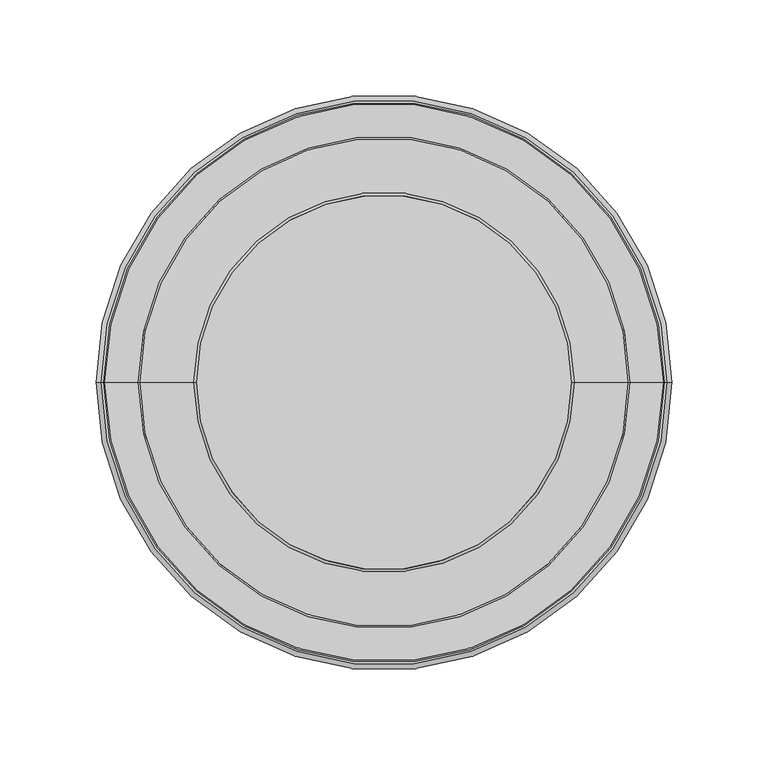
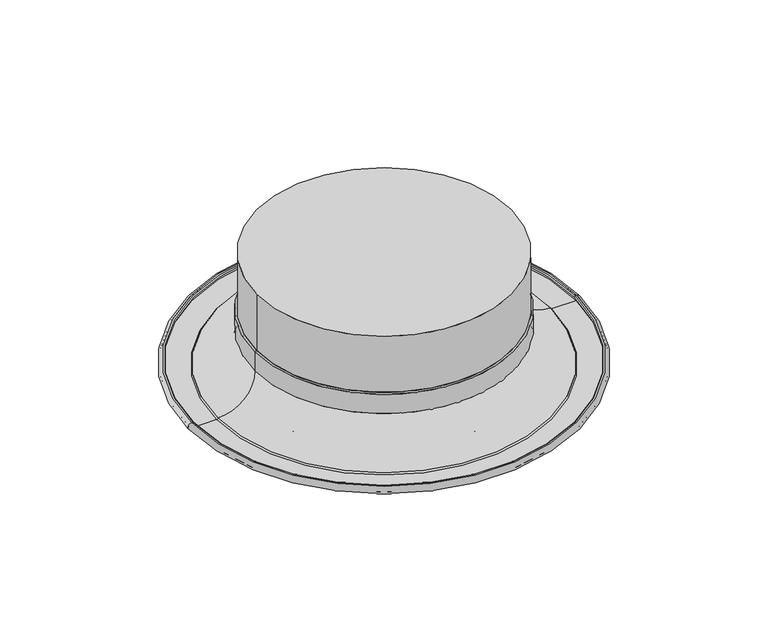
"""IFC4 building model written with IfcOpenShell, lengths in millimetres: air terminal geometry, AI_Bouche aération_Circulaire Extraction : ø200 mm."""

from ifc_helpers import new_model, si_unit, point, frame, origin, origin_with_axes, origin_2d, place, context, project, spatial, polyline, circle_curve, ellipse_curve, trimmed, segment, composite_curve, outline, extrude, source, transform, mapped, element, save
from ifc_brep_helpers import plane_surface, cylinder_surface, revolved_surface, advanced_brep


def air_terminal_8fbfe4fd(model_context):
    return source(origin(), model_context, "Body", "SolidModel", [
        extrude(outline(composite_curve([segment(trimmed(circle_curve(origin_2d(), 97.5), [point((97.5, 0.0))], [point((-97.5, 0.0))], False, "CARTESIAN"), True, "CONTINUOUS"), segment(trimmed(circle_curve(origin_2d(), 97.5), [point((-97.5, 0.0))], [point((97.5, 0.0))], False, "CARTESIAN"), True, "CONTINUOUS")], self_intersect=False)), frame((0.0, 0.0, 41.2), z_axis=(0.0, 0.0, 1.0), x_axis=(1.0, 0.0, 0.0)), (0.0, 0.0, 1.0), 45.4),
        advanced_brep(
        [(-72.4021074, 0.0, 20.3), (72.4021074, 0.0, 20.3), (74.6975243, 0.0, 18.1451243), (-74.6975243, 0.0, 18.1451243), (-70.0, 0.0, 20.3), (70.0, 0.0, 20.3), (-70.0, 0.0, 19.0), (70.0, 0.0, 19.0), (-72.4021074, 0.0, 19.0), (72.4021074, 0.0, 19.0), (-73.4001147, 0.0, 18.0630975), (73.4001147, 0.0, 18.0630975), (-98.5, 0.0, -5.5), (98.5, 0.0, -5.5), (-103.27, 0.0, -5.5), (103.27, 0.0, -5.5), (-103.27, 0.0, -0.7), (103.27, 0.0, -0.7), (-102.27, 0.0, -0.7), (102.27, 0.0, -0.7), (-102.27, 0.0, -2.0), (102.27, 0.0, -2.0), (-103.27, 0.0, -2.0), (103.27, 0.0, -2.0), (-103.27, 0.0, -4.2), (103.27, 0.0, -4.2), (-98.5, 0.0, -4.2), (98.5, 0.0, -4.2)],
        [
            (0, 1, circle_curve(frame((0.0, 0.0, 20.3), z_axis=(0.0, 0.0, -1.0), x_axis=(1.0, 0.0, 0.0)), 72.4021074)),
            (1, 2, circle_curve(frame((72.4021074, 0.0, 18.0), z_axis=(0.0, 1.0, 0.0), x_axis=(1.0, 0.0, 0.0)), 2.3)),
            (2, 3, circle_curve(frame((0.0, 0.0, 18.1451243), z_axis=(0.0, 0.0, 1.0), x_axis=(1.0, 0.0, 0.0)), 74.6975243)),
            (3, 0, circle_curve(frame((-72.4021074, 0.0, 18.0), z_axis=(0.0, 1.0, 0.0), x_axis=(-1.0, 0.0, 0.0)), 2.3)),
            (1, 0, circle_curve(frame((0.0, 0.0, 20.3), z_axis=(0.0, 0.0, -1.0), x_axis=(1.0, 0.0, 0.0)), 72.4021074)),
            (3, 2, circle_curve(frame((0.0, 0.0, 18.1451243), z_axis=(0.0, 0.0, 1.0), x_axis=(1.0, 0.0, 0.0)), 74.6975243)),
            (4, 5, circle_curve(frame((0.0, 0.0, 20.3), z_axis=(0.0, 0.0, -1.0), x_axis=(1.0, 0.0, 0.0)), 70.0)),
            (5, 1),
            (0, 4),
            (5, 4, circle_curve(frame((0.0, 0.0, 20.3), z_axis=(0.0, 0.0, -1.0), x_axis=(1.0, 0.0, 0.0)), 70.0)),
            (6, 7, circle_curve(frame((0.0, 0.0, 19.0), z_axis=(0.0, 0.0, -1.0), x_axis=(1.0, 0.0, 0.0)), 70.0)),
            (7, 5, circle_curve(frame((70.0, 0.0, 19.65), z_axis=(0.0, 1.0, 0.0), x_axis=(1.0, 0.0, 0.0)), 0.65)),
            (4, 6, circle_curve(frame((-70.0, 0.0, 19.65), z_axis=(0.0, 1.0, 0.0), x_axis=(-1.0, 0.0, 0.0)), 0.65)),
            (7, 6, circle_curve(frame((0.0, 0.0, 19.0), z_axis=(0.0, 0.0, -1.0), x_axis=(1.0, 0.0, 0.0)), 70.0)),
            (8, 9, circle_curve(frame((0.0, 0.0, 19.0), z_axis=(0.0, 0.0, -1.0), x_axis=(1.0, 0.0, 0.0)), 72.4021074)),
            (9, 7),
            (6, 8),
            (9, 8, circle_curve(frame((0.0, 0.0, 19.0), z_axis=(0.0, 0.0, -1.0), x_axis=(1.0, 0.0, 0.0)), 72.4021074)),
            (10, 11, circle_curve(frame((0.0, 0.0, 18.0630975), z_axis=(0.0, 0.0, -1.0), x_axis=(1.0, 0.0, 0.0)), 73.4001147)),
            (11, 9, circle_curve(frame((72.4021074, 0.0, 18.0), z_axis=(0.0, -1.0, 0.0), x_axis=(1.0, 0.0, 0.0)), 1.0)),
            (8, 10, circle_curve(frame((-72.4021074, 0.0, 18.0), z_axis=(0.0, -1.0, 0.0), x_axis=(-1.0, 0.0, 0.0)), 1.0)),
            (11, 10, circle_curve(frame((0.0, 0.0, 18.0630975), z_axis=(0.0, 0.0, -1.0), x_axis=(1.0, 0.0, 0.0)), 73.4001147)),
            (12, 13, circle_curve(frame((0.0, 0.0, -5.5), z_axis=(0.0, 0.0, -1.0), x_axis=(1.0, 0.0, 0.0)), 98.5)),
            (13, 11, circle_curve(frame((98.5, 0.0, 19.65), z_axis=(0.0, 1.0, 0.0), x_axis=(1.0, 0.0, 0.0)), 25.15)),
            (10, 12, circle_curve(frame((-98.5, 0.0, 19.65), z_axis=(0.0, 1.0, 0.0), x_axis=(-1.0, 0.0, 0.0)), 25.15)),
            (13, 12, circle_curve(frame((0.0, 0.0, -5.5), z_axis=(0.0, 0.0, -1.0), x_axis=(1.0, 0.0, 0.0)), 98.5)),
            (14, 15, circle_curve(frame((0.0, 0.0, -5.5), z_axis=(0.0, 0.0, -1.0), x_axis=(1.0, 0.0, 0.0)), 103.27)),
            (15, 13),
            (12, 14),
            (15, 14, circle_curve(frame((0.0, 0.0, -5.5), z_axis=(0.0, 0.0, -1.0), x_axis=(1.0, 0.0, 0.0)), 103.27)),
            (16, 17, circle_curve(frame((0.0, 0.0, -0.7), z_axis=(0.0, 0.0, -1.0), x_axis=(1.0, 0.0, 0.0)), 103.27)),
            (17, 15, circle_curve(frame((103.27, 0.0, -3.1), z_axis=(0.0, 1.0, 0.0), x_axis=(1.0, 0.0, 0.0)), 2.4)),
            (14, 16, circle_curve(frame((-103.27, 0.0, -3.1), z_axis=(0.0, 1.0, 0.0), x_axis=(-1.0, 0.0, 0.0)), 2.4)),
            (17, 16, circle_curve(frame((0.0, 0.0, -0.7), z_axis=(0.0, 0.0, -1.0), x_axis=(1.0, 0.0, 0.0)), 103.27)),
            (18, 19, circle_curve(frame((0.0, 0.0, -0.7), z_axis=(0.0, 0.0, -1.0), x_axis=(1.0, 0.0, 0.0)), 102.27)),
            (19, 17),
            (16, 18),
            (19, 18, circle_curve(frame((0.0, 0.0, -0.7), z_axis=(0.0, 0.0, -1.0), x_axis=(1.0, 0.0, 0.0)), 102.27)),
            (20, 21, circle_curve(frame((0.0, 0.0, -2.0), z_axis=(0.0, 0.0, -1.0), x_axis=(1.0, 0.0, 0.0)), 102.27)),
            (21, 19, circle_curve(frame((102.27, 0.0, -1.35), z_axis=(0.0, 1.0, 0.0), x_axis=(1.0, 0.0, 0.0)), 0.65)),
            (18, 20, circle_curve(frame((-102.27, 0.0, -1.35), z_axis=(0.0, 1.0, 0.0), x_axis=(-1.0, 0.0, 0.0)), 0.65)),
            (21, 20, circle_curve(frame((0.0, 0.0, -2.0), z_axis=(0.0, 0.0, -1.0), x_axis=(1.0, 0.0, 0.0)), 102.27)),
            (22, 23, circle_curve(frame((0.0, 0.0, -2.0), z_axis=(0.0, 0.0, -1.0), x_axis=(1.0, 0.0, 0.0)), 103.27)),
            (23, 21),
            (20, 22),
            (23, 22, circle_curve(frame((0.0, 0.0, -2.0), z_axis=(0.0, 0.0, -1.0), x_axis=(1.0, 0.0, 0.0)), 103.27)),
            (24, 25, circle_curve(frame((0.0, 0.0, -4.2), z_axis=(0.0, 0.0, -1.0), x_axis=(1.0, 0.0, 0.0)), 103.27)),
            (25, 23, circle_curve(frame((103.27, 0.0, -3.1), z_axis=(0.0, -1.0, 0.0), x_axis=(1.0, 0.0, 0.0)), 1.1)),
            (22, 24, circle_curve(frame((-103.27, 0.0, -3.1), z_axis=(0.0, -1.0, 0.0), x_axis=(-1.0, 0.0, 0.0)), 1.1)),
            (25, 24, circle_curve(frame((0.0, 0.0, -4.2), z_axis=(0.0, 0.0, -1.0), x_axis=(1.0, 0.0, 0.0)), 103.27)),
            (26, 27, circle_curve(frame((0.0, 0.0, -4.2), z_axis=(0.0, 0.0, -1.0), x_axis=(1.0, 0.0, 0.0)), 98.5)),
            (27, 25),
            (24, 26),
            (27, 26, circle_curve(frame((0.0, 0.0, -4.2), z_axis=(0.0, 0.0, -1.0), x_axis=(1.0, 0.0, 0.0)), 98.5)),
            (2, 27, circle_curve(frame((98.5, 0.0, 19.65), z_axis=(0.0, -1.0, 0.0), x_axis=(1.0, 0.0, 0.0)), 23.85)),
            (26, 3, circle_curve(frame((-98.5, 0.0, 19.65), z_axis=(0.0, -1.0, 0.0), x_axis=(-1.0, 0.0, 0.0)), 23.85)),
        ],
        [
            revolved_surface(trimmed(ellipse_curve(frame((72.4021074, 0.0, 18.0), z_axis=(0.0, -1.0, 0.0), x_axis=(1.0, 0.0, 0.0)), 2.3, 2.3), [point((74.6975243, 0.0, 18.1451243))], [point((72.4021074, 0.0, 20.3))], True, "CARTESIAN"), (0.0, 0.0, 1789.7688894), (0.0, 0.0, 1.0)),
            plane_surface(frame((0.0, 0.0, 20.3), z_axis=(0.0, 0.0, 1.0), x_axis=(1.0, 0.0, 0.0))),
            revolved_surface(trimmed(ellipse_curve(frame((70.0, 0.0, 19.65), z_axis=(0.0, -1.0, 0.0), x_axis=(1.0, 0.0, 0.0)), 0.65, 0.65), [point((70.0, 0.0, 20.3))], [point((70.0, 0.0, 19.0))], True, "CARTESIAN"), (0.0, 0.0, 1789.7688894), (0.0, 0.0, 1.0)),
            plane_surface(frame((0.0, 0.0, 19.0), z_axis=(0.0, 0.0, -1.0), x_axis=(1.0, 0.0, 0.0))),
            revolved_surface(trimmed(ellipse_curve(frame((72.4021074, 0.0, 18.0), z_axis=(0.0, 1.0, 0.0), x_axis=(1.0, 0.0, 0.0)), 1.0, 1.0), [point((72.4021074, 0.0, 19.0))], [point((73.4001147, 0.0, 18.0630975))], True, "CARTESIAN"), (0.0, 0.0, 1789.7688894), (0.0, 0.0, 1.0)),
            revolved_surface(trimmed(ellipse_curve(frame((98.5, 0.0, 19.65), z_axis=(0.0, -1.0, 0.0), x_axis=(1.0, 0.0, 0.0)), 25.15, 25.15), [point((73.4001147, 0.0, 18.0630975))], [point((98.5, 0.0, -5.5))], True, "CARTESIAN"), (0.0, 0.0, 1789.7688894), (0.0, 0.0, 1.0)),
            plane_surface(frame((0.0, 0.0, -5.5), z_axis=(0.0, 0.0, -1.0), x_axis=(1.0, 0.0, 0.0))),
            revolved_surface(trimmed(ellipse_curve(frame((103.27, 0.0, -3.1), z_axis=(0.0, -1.0, 0.0), x_axis=(1.0, 0.0, 0.0)), 2.4, 2.4), [point((103.27, 0.0, -5.5))], [point((103.27, 0.0, -0.7))], True, "CARTESIAN"), (0.0, 0.0, 1789.7688894), (0.0, 0.0, 1.0)),
            plane_surface(frame((0.0, 0.0, -0.7), z_axis=(0.0, 0.0, 1.0), x_axis=(1.0, 0.0, 0.0))),
            revolved_surface(trimmed(ellipse_curve(frame((102.27, 0.0, -1.35), z_axis=(0.0, -1.0, 0.0), x_axis=(1.0, 0.0, 0.0)), 0.65, 0.65), [point((102.27, 0.0, -0.7))], [point((102.27, 0.0, -2.0))], True, "CARTESIAN"), (0.0, 0.0, 1789.7688894), (0.0, 0.0, 1.0)),
            plane_surface(frame((0.0, 0.0, -2.0), z_axis=(0.0, 0.0, -1.0), x_axis=(1.0, 0.0, 0.0))),
            revolved_surface(trimmed(ellipse_curve(frame((103.27, 0.0, -3.1), z_axis=(0.0, 1.0, 0.0), x_axis=(1.0, 0.0, 0.0)), 1.1, 1.1), [point((103.27, 0.0, -2.0))], [point((103.27, 0.0, -4.2))], True, "CARTESIAN"), (0.0, 0.0, 1789.7688894), (0.0, 0.0, 1.0)),
            plane_surface(frame((0.0, 0.0, -4.2), z_axis=(0.0, 0.0, 1.0), x_axis=(1.0, 0.0, 0.0))),
            revolved_surface(trimmed(ellipse_curve(frame((98.5, 0.0, 19.65), z_axis=(0.0, 1.0, 0.0), x_axis=(1.0, 0.0, 0.0)), 23.85, 23.85), [point((98.5, 0.0, -4.2))], [point((74.6975243, 0.0, 18.1451243))], True, "CARTESIAN"), (0.0, 0.0, 1789.7688894), (0.0, 0.0, 1.0)),
        ],
        [
            (0, [[1, 2, 3, 4]]),
            (0, [[5, -4, 6, -2]]),
            (1, [[7, 8, -1, 9]]),
            (1, [[10, -9, -5, -8]]),
            (2, [[11, 12, -7, 13]]),
            (2, [[14, -13, -10, -12]]),
            (3, [[15, 16, -11, 17]]),
            (3, [[18, -17, -14, -16]]),
            (4, [[19, 20, -15, 21]]),
            (4, [[22, -21, -18, -20]]),
            (5, [[23, 24, -19, 25]]),
            (5, [[26, -25, -22, -24]]),
            (6, [[27, 28, -23, 29]]),
            (6, [[30, -29, -26, -28]]),
            (7, [[31, 32, -27, 33]]),
            (7, [[34, -33, -30, -32]]),
            (8, [[35, 36, -31, 37]]),
            (8, [[38, -37, -34, -36]]),
            (9, [[39, 40, -35, 41]]),
            (9, [[42, -41, -38, -40]]),
            (10, [[43, 44, -39, 45]]),
            (10, [[46, -45, -42, -44]]),
            (11, [[47, 48, -43, 49]]),
            (11, [[50, -49, -46, -48]]),
            (12, [[51, 52, -47, 53]]),
            (12, [[54, -53, -50, -52]]),
            (13, [[-3, 55, -51, 56]]),
            (13, [[-6, -56, -54, -55]]),
        ],
    ),
        advanced_brep(
        [(-42.4021074, 0.0, 20.3), (42.4021074, 0.0, 20.3), (44.6975243, 0.0, 18.1451243), (-44.6975243, 0.0, 18.1451243), (-40.0, 0.0, 20.3), (40.0, 0.0, 20.3), (-40.0, 0.0, 19.0), (40.0, 0.0, 19.0), (-42.4021074, 0.0, 19.0), (42.4021074, 0.0, 19.0), (-43.4001147, 0.0, 18.0630975), (43.4001147, 0.0, 18.0630975), (-68.5, 0.0, -5.5), (68.5, 0.0, -5.5), (-73.27, 0.0, -5.5), (73.27, 0.0, -5.5), (-73.27, 0.0, -0.7), (73.27, 0.0, -0.7), (-72.27, 0.0, -0.7), (72.27, 0.0, -0.7), (-72.27, 0.0, -2.0), (72.27, 0.0, -2.0), (-73.27, 0.0, -2.0), (73.27, 0.0, -2.0), (-73.27, 0.0, -4.2), (73.27, 0.0, -4.2), (-68.5, 0.0, -4.2), (68.5, 0.0, -4.2)],
        [
            (0, 1, circle_curve(frame((0.0, 0.0, 20.3), z_axis=(0.0, 0.0, -1.0), x_axis=(1.0, 0.0, 0.0)), 42.4021074)),
            (1, 2, circle_curve(frame((42.4021074, 0.0, 18.0), z_axis=(0.0, 1.0, 0.0), x_axis=(1.0, 0.0, 0.0)), 2.3)),
            (2, 3, circle_curve(frame((0.0, 0.0, 18.1451243), z_axis=(0.0, 0.0, 1.0), x_axis=(1.0, 0.0, 0.0)), 44.6975243)),
            (3, 0, circle_curve(frame((-42.4021074, 0.0, 18.0), z_axis=(0.0, 1.0, 0.0), x_axis=(-1.0, 0.0, 0.0)), 2.3)),
            (1, 0, circle_curve(frame((0.0, 0.0, 20.3), z_axis=(0.0, 0.0, -1.0), x_axis=(1.0, 0.0, 0.0)), 42.4021074)),
            (3, 2, circle_curve(frame((0.0, 0.0, 18.1451243), z_axis=(0.0, 0.0, 1.0), x_axis=(1.0, 0.0, 0.0)), 44.6975243)),
            (4, 5, circle_curve(frame((0.0, 0.0, 20.3), z_axis=(0.0, 0.0, -1.0), x_axis=(1.0, 0.0, 0.0)), 40.0)),
            (5, 1),
            (0, 4),
            (5, 4, circle_curve(frame((0.0, 0.0, 20.3), z_axis=(0.0, 0.0, -1.0), x_axis=(1.0, 0.0, 0.0)), 40.0)),
            (6, 7, circle_curve(frame((0.0, 0.0, 19.0), z_axis=(0.0, 0.0, -1.0), x_axis=(1.0, 0.0, 0.0)), 40.0)),
            (7, 5, circle_curve(frame((40.0, 0.0, 19.65), z_axis=(0.0, 1.0, 0.0), x_axis=(1.0, 0.0, 0.0)), 0.65)),
            (4, 6, circle_curve(frame((-40.0, 0.0, 19.65), z_axis=(0.0, 1.0, 0.0), x_axis=(-1.0, 0.0, 0.0)), 0.65)),
            (7, 6, circle_curve(frame((0.0, 0.0, 19.0), z_axis=(0.0, 0.0, -1.0), x_axis=(1.0, 0.0, 0.0)), 40.0)),
            (8, 9, circle_curve(frame((0.0, 0.0, 19.0), z_axis=(0.0, 0.0, -1.0), x_axis=(1.0, 0.0, 0.0)), 42.4021074)),
            (9, 7),
            (6, 8),
            (9, 8, circle_curve(frame((0.0, 0.0, 19.0), z_axis=(0.0, 0.0, -1.0), x_axis=(1.0, 0.0, 0.0)), 42.4021074)),
            (10, 11, circle_curve(frame((0.0, 0.0, 18.0630975), z_axis=(0.0, 0.0, -1.0), x_axis=(1.0, 0.0, 0.0)), 43.4001147)),
            (11, 9, circle_curve(frame((42.4021074, 0.0, 18.0), z_axis=(0.0, -1.0, 0.0), x_axis=(1.0, 0.0, 0.0)), 1.0)),
            (8, 10, circle_curve(frame((-42.4021074, 0.0, 18.0), z_axis=(0.0, -1.0, 0.0), x_axis=(-1.0, 0.0, 0.0)), 1.0)),
            (11, 10, circle_curve(frame((0.0, 0.0, 18.0630975), z_axis=(0.0, 0.0, -1.0), x_axis=(1.0, 0.0, 0.0)), 43.4001147)),
            (12, 13, circle_curve(frame((0.0, 0.0, -5.5), z_axis=(0.0, 0.0, -1.0), x_axis=(1.0, 0.0, 0.0)), 68.5)),
            (13, 11, circle_curve(frame((68.5, 0.0, 19.65), z_axis=(0.0, 1.0, 0.0), x_axis=(1.0, 0.0, 0.0)), 25.15)),
            (10, 12, circle_curve(frame((-68.5, 0.0, 19.65), z_axis=(0.0, 1.0, 0.0), x_axis=(-1.0, 0.0, 0.0)), 25.15)),
            (13, 12, circle_curve(frame((0.0, 0.0, -5.5), z_axis=(0.0, 0.0, -1.0), x_axis=(1.0, 0.0, 0.0)), 68.5)),
            (14, 15, circle_curve(frame((0.0, 0.0, -5.5), z_axis=(0.0, 0.0, -1.0), x_axis=(1.0, 0.0, 0.0)), 73.27)),
            (15, 13),
            (12, 14),
            (15, 14, circle_curve(frame((0.0, 0.0, -5.5), z_axis=(0.0, 0.0, -1.0), x_axis=(1.0, 0.0, 0.0)), 73.27)),
            (16, 17, circle_curve(frame((0.0, 0.0, -0.7), z_axis=(0.0, 0.0, -1.0), x_axis=(1.0, 0.0, 0.0)), 73.27)),
            (17, 15, circle_curve(frame((73.27, 0.0, -3.1), z_axis=(0.0, 1.0, 0.0), x_axis=(1.0, 0.0, 0.0)), 2.4)),
            (14, 16, circle_curve(frame((-73.27, 0.0, -3.1), z_axis=(0.0, 1.0, 0.0), x_axis=(-1.0, 0.0, 0.0)), 2.4)),
            (17, 16, circle_curve(frame((0.0, 0.0, -0.7), z_axis=(0.0, 0.0, -1.0), x_axis=(1.0, 0.0, 0.0)), 73.27)),
            (18, 19, circle_curve(frame((0.0, 0.0, -0.7), z_axis=(0.0, 0.0, -1.0), x_axis=(1.0, 0.0, 0.0)), 72.27)),
            (19, 17),
            (16, 18),
            (19, 18, circle_curve(frame((0.0, 0.0, -0.7), z_axis=(0.0, 0.0, -1.0), x_axis=(1.0, 0.0, 0.0)), 72.27)),
            (20, 21, circle_curve(frame((0.0, 0.0, -2.0), z_axis=(0.0, 0.0, -1.0), x_axis=(1.0, 0.0, 0.0)), 72.27)),
            (21, 19, circle_curve(frame((72.27, 0.0, -1.35), z_axis=(0.0, 1.0, 0.0), x_axis=(1.0, 0.0, 0.0)), 0.65)),
            (18, 20, circle_curve(frame((-72.27, 0.0, -1.35), z_axis=(0.0, 1.0, 0.0), x_axis=(-1.0, 0.0, 0.0)), 0.65)),
            (21, 20, circle_curve(frame((0.0, 0.0, -2.0), z_axis=(0.0, 0.0, -1.0), x_axis=(1.0, 0.0, 0.0)), 72.27)),
            (22, 23, circle_curve(frame((0.0, 0.0, -2.0), z_axis=(0.0, 0.0, -1.0), x_axis=(1.0, 0.0, 0.0)), 73.27)),
            (23, 21),
            (20, 22),
            (23, 22, circle_curve(frame((0.0, 0.0, -2.0), z_axis=(0.0, 0.0, -1.0), x_axis=(1.0, 0.0, 0.0)), 73.27)),
            (24, 25, circle_curve(frame((0.0, 0.0, -4.2), z_axis=(0.0, 0.0, -1.0), x_axis=(1.0, 0.0, 0.0)), 73.27)),
            (25, 23, circle_curve(frame((73.27, 0.0, -3.1), z_axis=(0.0, -1.0, 0.0), x_axis=(1.0, 0.0, 0.0)), 1.1)),
            (22, 24, circle_curve(frame((-73.27, 0.0, -3.1), z_axis=(0.0, -1.0, 0.0), x_axis=(-1.0, 0.0, 0.0)), 1.1)),
            (25, 24, circle_curve(frame((0.0, 0.0, -4.2), z_axis=(0.0, 0.0, -1.0), x_axis=(1.0, 0.0, 0.0)), 73.27)),
            (26, 27, circle_curve(frame((0.0, 0.0, -4.2), z_axis=(0.0, 0.0, -1.0), x_axis=(1.0, 0.0, 0.0)), 68.5)),
            (27, 25),
            (24, 26),
            (27, 26, circle_curve(frame((0.0, 0.0, -4.2), z_axis=(0.0, 0.0, -1.0), x_axis=(1.0, 0.0, 0.0)), 68.5)),
            (2, 27, circle_curve(frame((68.5, 0.0, 19.65), z_axis=(0.0, -1.0, 0.0), x_axis=(1.0, 0.0, 0.0)), 23.85)),
            (26, 3, circle_curve(frame((-68.5, 0.0, 19.65), z_axis=(0.0, -1.0, 0.0), x_axis=(-1.0, 0.0, 0.0)), 23.85)),
        ],
        [
            revolved_surface(trimmed(ellipse_curve(frame((42.4021074, 0.0, 18.0), z_axis=(0.0, -1.0, 0.0), x_axis=(1.0, 0.0, 0.0)), 2.3, 2.3), [point((44.6975243, 0.0, 18.1451243))], [point((42.4021074, 0.0, 20.3))], True, "CARTESIAN"), (0.0, 0.0, 1789.7688894), (0.0, 0.0, 1.0)),
            plane_surface(frame((0.0, 0.0, 20.3), z_axis=(0.0, 0.0, 1.0), x_axis=(1.0, 0.0, 0.0))),
            revolved_surface(trimmed(ellipse_curve(frame((40.0, 0.0, 19.65), z_axis=(0.0, -1.0, 0.0), x_axis=(1.0, 0.0, 0.0)), 0.65, 0.65), [point((40.0, 0.0, 20.3))], [point((40.0, 0.0, 19.0))], True, "CARTESIAN"), (0.0, 0.0, 1789.7688894), (0.0, 0.0, 1.0)),
            plane_surface(frame((0.0, 0.0, 19.0), z_axis=(0.0, 0.0, -1.0), x_axis=(1.0, 0.0, 0.0))),
            revolved_surface(trimmed(ellipse_curve(frame((42.4021074, 0.0, 18.0), z_axis=(0.0, 1.0, 0.0), x_axis=(1.0, 0.0, 0.0)), 1.0, 1.0), [point((42.4021074, 0.0, 19.0))], [point((43.4001147, 0.0, 18.0630975))], True, "CARTESIAN"), (0.0, 0.0, 1789.7688894), (0.0, 0.0, 1.0)),
            revolved_surface(trimmed(ellipse_curve(frame((68.5, 0.0, 19.65), z_axis=(0.0, -1.0, 0.0), x_axis=(1.0, 0.0, 0.0)), 25.15, 25.15), [point((43.4001147, 0.0, 18.0630975))], [point((68.5, 0.0, -5.5))], True, "CARTESIAN"), (0.0, 0.0, 1789.7688894), (0.0, 0.0, 1.0)),
            plane_surface(frame((0.0, 0.0, -5.5), z_axis=(0.0, 0.0, -1.0), x_axis=(1.0, 0.0, 0.0))),
            revolved_surface(trimmed(ellipse_curve(frame((73.27, 0.0, -3.1), z_axis=(0.0, -1.0, 0.0), x_axis=(1.0, 0.0, 0.0)), 2.4, 2.4), [point((73.27, 0.0, -5.5))], [point((73.27, 0.0, -0.7))], True, "CARTESIAN"), (0.0, 0.0, 1789.7688894), (0.0, 0.0, 1.0)),
            plane_surface(frame((0.0, 0.0, -0.7), z_axis=(0.0, 0.0, 1.0), x_axis=(1.0, 0.0, 0.0))),
            revolved_surface(trimmed(ellipse_curve(frame((72.27, 0.0, -1.35), z_axis=(0.0, -1.0, 0.0), x_axis=(1.0, 0.0, 0.0)), 0.65, 0.65), [point((72.27, 0.0, -0.7))], [point((72.27, 0.0, -2.0))], True, "CARTESIAN"), (0.0, 0.0, 1789.7688894), (0.0, 0.0, 1.0)),
            plane_surface(frame((0.0, 0.0, -2.0), z_axis=(0.0, 0.0, -1.0), x_axis=(1.0, 0.0, 0.0))),
            revolved_surface(trimmed(ellipse_curve(frame((73.27, 0.0, -3.1), z_axis=(0.0, 1.0, 0.0), x_axis=(1.0, 0.0, 0.0)), 1.1, 1.1), [point((73.27, 0.0, -2.0))], [point((73.27, 0.0, -4.2))], True, "CARTESIAN"), (0.0, 0.0, 1789.7688894), (0.0, 0.0, 1.0)),
            plane_surface(frame((0.0, 0.0, -4.2), z_axis=(0.0, 0.0, 1.0), x_axis=(1.0, 0.0, 0.0))),
            revolved_surface(trimmed(ellipse_curve(frame((68.5, 0.0, 19.65), z_axis=(0.0, 1.0, 0.0), x_axis=(1.0, 0.0, 0.0)), 23.85, 23.85), [point((68.5, 0.0, -4.2))], [point((44.6975243, 0.0, 18.1451243))], True, "CARTESIAN"), (0.0, 0.0, 1789.7688894), (0.0, 0.0, 1.0)),
        ],
        [
            (0, [[1, 2, 3, 4]]),
            (0, [[5, -4, 6, -2]]),
            (1, [[7, 8, -1, 9]]),
            (1, [[10, -9, -5, -8]]),
            (2, [[11, 12, -7, 13]]),
            (2, [[14, -13, -10, -12]]),
            (3, [[15, 16, -11, 17]]),
            (3, [[18, -17, -14, -16]]),
            (4, [[19, 20, -15, 21]]),
            (4, [[22, -21, -18, -20]]),
            (5, [[23, 24, -19, 25]]),
            (5, [[26, -25, -22, -24]]),
            (6, [[27, 28, -23, 29]]),
            (6, [[30, -29, -26, -28]]),
            (7, [[31, 32, -27, 33]]),
            (7, [[34, -33, -30, -32]]),
            (8, [[35, 36, -31, 37]]),
            (8, [[38, -37, -34, -36]]),
            (9, [[39, 40, -35, 41]]),
            (9, [[42, -41, -38, -40]]),
            (10, [[43, 44, -39, 45]]),
            (10, [[46, -45, -42, -44]]),
            (11, [[47, 48, -43, 49]]),
            (11, [[50, -49, -46, -48]]),
            (12, [[51, 52, -47, 53]]),
            (12, [[54, -53, -50, -52]]),
            (13, [[-3, 55, -51, 56]]),
            (13, [[-6, -56, -54, -55]]),
        ],
    ),
        advanced_brep(
        [(-41.27, 0.0, -5.5), (41.27, 0.0, -5.5), (36.5, 0.0, -5.5), (-36.5, 0.0, -5.5), (-41.27, 0.0, -0.7), (41.27, 0.0, -0.7), (-40.27, 0.0, -0.7), (40.27, 0.0, -0.7), (-40.27, 0.0, -2.0), (40.27, 0.0, -2.0), (-41.27, 0.0, -2.0), (41.27, 0.0, -2.0), (-41.27, 0.0, -4.2), (41.27, 0.0, -4.2), (-36.5, 0.0, -4.2), (36.5, 0.0, -4.2), (-12.6975243, 0.0, 18.1451243), (12.6975243, 0.0, 18.1451243), (-10.4021074, 0.0, 20.3), (10.4021074, 0.0, 20.3), (0.0, 0.0, 20.3), (-5.8512508, 0.0, 14.3598455), (5.8512508, 0.0, 14.3598455), (0.0, 0.0, 14.3598455), (-6.85, 0.0, 15.3098455), (6.85, 0.0, 15.3098455), (-6.85, 0.0, 19.0), (6.85, 0.0, 19.0), (-10.4021074, 0.0, 19.0), (10.4021074, 0.0, 19.0), (-11.4001147, 0.0, 18.0630975), (11.4001147, 0.0, 18.0630975)],
        [
            (0, 1, circle_curve(frame((0.0, 0.0, -5.5), z_axis=(0.0, 0.0, -1.0), x_axis=(1.0, 0.0, 0.0)), 41.27)),
            (1, 2),
            (2, 3, circle_curve(frame((0.0, 0.0, -5.5), z_axis=(0.0, 0.0, 1.0), x_axis=(1.0, 0.0, 0.0)), 36.5)),
            (3, 0),
            (1, 0, circle_curve(frame((0.0, 0.0, -5.5), z_axis=(0.0, 0.0, -1.0), x_axis=(1.0, 0.0, 0.0)), 41.27)),
            (3, 2, circle_curve(frame((0.0, 0.0, -5.5), z_axis=(0.0, 0.0, 1.0), x_axis=(1.0, 0.0, 0.0)), 36.5)),
            (4, 5, circle_curve(frame((0.0, 0.0, -0.7), z_axis=(0.0, 0.0, -1.0), x_axis=(1.0, 0.0, 0.0)), 41.27)),
            (5, 1, circle_curve(frame((41.27, 0.0, -3.1), z_axis=(0.0, 1.0, 0.0), x_axis=(1.0, 0.0, 0.0)), 2.4)),
            (0, 4, circle_curve(frame((-41.27, 0.0, -3.1), z_axis=(0.0, 1.0, 0.0), x_axis=(-1.0, 0.0, 0.0)), 2.4)),
            (5, 4, circle_curve(frame((0.0, 0.0, -0.7), z_axis=(0.0, 0.0, -1.0), x_axis=(1.0, 0.0, 0.0)), 41.27)),
            (6, 7, circle_curve(frame((0.0, 0.0, -0.7), z_axis=(0.0, 0.0, -1.0), x_axis=(1.0, 0.0, 0.0)), 40.27)),
            (7, 5),
            (4, 6),
            (7, 6, circle_curve(frame((0.0, 0.0, -0.7), z_axis=(0.0, 0.0, -1.0), x_axis=(1.0, 0.0, 0.0)), 40.27)),
            (8, 9, circle_curve(frame((0.0, 0.0, -2.0), z_axis=(0.0, 0.0, -1.0), x_axis=(1.0, 0.0, 0.0)), 40.27)),
            (9, 7, circle_curve(frame((40.27, 0.0, -1.35), z_axis=(0.0, 1.0, 0.0), x_axis=(1.0, 0.0, 0.0)), 0.65)),
            (6, 8, circle_curve(frame((-40.27, 0.0, -1.35), z_axis=(0.0, 1.0, 0.0), x_axis=(-1.0, 0.0, 0.0)), 0.65)),
            (9, 8, circle_curve(frame((0.0, 0.0, -2.0), z_axis=(0.0, 0.0, -1.0), x_axis=(1.0, 0.0, 0.0)), 40.27)),
            (10, 11, circle_curve(frame((0.0, 0.0, -2.0), z_axis=(0.0, 0.0, -1.0), x_axis=(1.0, 0.0, 0.0)), 41.27)),
            (11, 9),
            (8, 10),
            (11, 10, circle_curve(frame((0.0, 0.0, -2.0), z_axis=(0.0, 0.0, -1.0), x_axis=(1.0, 0.0, 0.0)), 41.27)),
            (12, 13, circle_curve(frame((0.0, 0.0, -4.2), z_axis=(0.0, 0.0, -1.0), x_axis=(1.0, 0.0, 0.0)), 41.27)),
            (13, 11, circle_curve(frame((41.27, 0.0, -3.1), z_axis=(0.0, -1.0, 0.0), x_axis=(1.0, 0.0, 0.0)), 1.1)),
            (10, 12, circle_curve(frame((-41.27, 0.0, -3.1), z_axis=(0.0, -1.0, 0.0), x_axis=(-1.0, 0.0, 0.0)), 1.1)),
            (13, 12, circle_curve(frame((0.0, 0.0, -4.2), z_axis=(0.0, 0.0, -1.0), x_axis=(1.0, 0.0, 0.0)), 41.27)),
            (14, 15, circle_curve(frame((0.0, 0.0, -4.2), z_axis=(0.0, 0.0, -1.0), x_axis=(1.0, 0.0, 0.0)), 36.5)),
            (15, 13),
            (12, 14),
            (15, 14, circle_curve(frame((0.0, 0.0, -4.2), z_axis=(0.0, 0.0, -1.0), x_axis=(1.0, 0.0, 0.0)), 36.5)),
            (16, 17, circle_curve(frame((0.0, 0.0, 18.1451243), z_axis=(0.0, 0.0, -1.0), x_axis=(1.0, 0.0, 0.0)), 12.6975243)),
            (17, 15, circle_curve(frame((36.5, 0.0, 19.65), z_axis=(0.0, -1.0, 0.0), x_axis=(1.0, 0.0, 0.0)), 23.85)),
            (14, 16, circle_curve(frame((-36.5, 0.0, 19.65), z_axis=(0.0, -1.0, 0.0), x_axis=(-1.0, 0.0, 0.0)), 23.85)),
            (17, 16, circle_curve(frame((0.0, 0.0, 18.1451243), z_axis=(0.0, 0.0, -1.0), x_axis=(1.0, 0.0, 0.0)), 12.6975243)),
            (18, 19, circle_curve(frame((0.0, 0.0, 20.3), z_axis=(0.0, 0.0, -1.0), x_axis=(1.0, 0.0, 0.0)), 10.4021074)),
            (19, 17, circle_curve(frame((10.4021074, 0.0, 18.0), z_axis=(0.0, 1.0, 0.0), x_axis=(1.0, 0.0, 0.0)), 2.3)),
            (16, 18, circle_curve(frame((-10.4021074, 0.0, 18.0), z_axis=(0.0, 1.0, 0.0), x_axis=(-1.0, 0.0, 0.0)), 2.3)),
            (19, 18, circle_curve(frame((0.0, 0.0, 20.3), z_axis=(0.0, 0.0, -1.0), x_axis=(1.0, 0.0, 0.0)), 10.4021074)),
            (20, 19),
            (18, 20),
            (21, 22, circle_curve(frame((0.0, 0.0, 14.3598455), z_axis=(0.0, 0.0, -1.0), x_axis=(1.0, 0.0, 0.0)), 5.8512508)),
            (22, 23),
            (23, 21),
            (22, 21, circle_curve(frame((0.0, 0.0, 14.3598455), z_axis=(0.0, 0.0, -1.0), x_axis=(1.0, 0.0, 0.0)), 5.8512508)),
            (24, 25, circle_curve(frame((0.0, 0.0, 15.3098455), z_axis=(0.0, 0.0, -1.0), x_axis=(1.0, 0.0, 0.0)), 6.85)),
            (25, 22, circle_curve(frame((5.8512508, 0.0, 15.3598455), z_axis=(0.0, 1.0, 0.0), x_axis=(1.0, 0.0, 0.0)), 1.0)),
            (21, 24, circle_curve(frame((-5.8512508, 0.0, 15.3598455), z_axis=(0.0, 1.0, 0.0), x_axis=(-1.0, 0.0, 0.0)), 1.0)),
            (25, 24, circle_curve(frame((0.0, 0.0, 15.3098455), z_axis=(0.0, 0.0, -1.0), x_axis=(1.0, 0.0, 0.0)), 6.85)),
            (26, 27, circle_curve(frame((0.0, 0.0, 19.0), z_axis=(0.0, 0.0, -1.0), x_axis=(1.0, 0.0, 0.0)), 6.85)),
            (27, 25),
            (24, 26),
            (27, 26, circle_curve(frame((0.0, 0.0, 19.0), z_axis=(0.0, 0.0, -1.0), x_axis=(1.0, 0.0, 0.0)), 6.85)),
            (28, 29, circle_curve(frame((0.0, 0.0, 19.0), z_axis=(0.0, 0.0, -1.0), x_axis=(1.0, 0.0, 0.0)), 10.4021074)),
            (29, 27),
            (26, 28),
            (29, 28, circle_curve(frame((0.0, 0.0, 19.0), z_axis=(0.0, 0.0, -1.0), x_axis=(1.0, 0.0, 0.0)), 10.4021074)),
            (30, 31, circle_curve(frame((0.0, 0.0, 18.0630975), z_axis=(0.0, 0.0, -1.0), x_axis=(1.0, 0.0, 0.0)), 11.4001147)),
            (31, 29, circle_curve(frame((10.4021074, 0.0, 18.0), z_axis=(0.0, -1.0, 0.0), x_axis=(1.0, 0.0, 0.0)), 1.0)),
            (28, 30, circle_curve(frame((-10.4021074, 0.0, 18.0), z_axis=(0.0, -1.0, 0.0), x_axis=(-1.0, 0.0, 0.0)), 1.0)),
            (31, 30, circle_curve(frame((0.0, 0.0, 18.0630975), z_axis=(0.0, 0.0, -1.0), x_axis=(1.0, 0.0, 0.0)), 11.4001147)),
            (2, 31, circle_curve(frame((36.5, 0.0, 19.65), z_axis=(0.0, 1.0, 0.0), x_axis=(1.0, 0.0, 0.0)), 25.15)),
            (30, 3, circle_curve(frame((-36.5, 0.0, 19.65), z_axis=(0.0, 1.0, 0.0), x_axis=(-1.0, 0.0, 0.0)), 25.15)),
        ],
        [
            plane_surface(frame((0.0, 0.0, -5.5), z_axis=(0.0, 0.0, -1.0), x_axis=(1.0, 0.0, 0.0))),
            revolved_surface(trimmed(ellipse_curve(frame((41.27, 0.0, -3.1), z_axis=(0.0, -1.0, 0.0), x_axis=(1.0, 0.0, 0.0)), 2.4, 2.4), [point((41.27, 0.0, -5.5))], [point((41.27, 0.0, -0.7))], True, "CARTESIAN"), (0.0, 0.0, 1789.7688894), (0.0, 0.0, 1.0)),
            plane_surface(frame((0.0, 0.0, -0.7), z_axis=(0.0, 0.0, 1.0), x_axis=(1.0, 0.0, 0.0))),
            revolved_surface(trimmed(ellipse_curve(frame((40.27, 0.0, -1.35), z_axis=(0.0, -1.0, 0.0), x_axis=(1.0, 0.0, 0.0)), 0.65, 0.65), [point((40.27, 0.0, -0.7))], [point((40.27, 0.0, -2.0))], True, "CARTESIAN"), (0.0, 0.0, 1789.7688894), (0.0, 0.0, 1.0)),
            plane_surface(frame((0.0, 0.0, -2.0), z_axis=(0.0, 0.0, -1.0), x_axis=(1.0, 0.0, 0.0))),
            revolved_surface(trimmed(ellipse_curve(frame((41.27, 0.0, -3.1), z_axis=(0.0, 1.0, 0.0), x_axis=(1.0, 0.0, 0.0)), 1.1, 1.1), [point((41.27, 0.0, -2.0))], [point((41.27, 0.0, -4.2))], True, "CARTESIAN"), (0.0, 0.0, 1789.7688894), (0.0, 0.0, 1.0)),
            plane_surface(frame((0.0, 0.0, -4.2), z_axis=(0.0, 0.0, 1.0), x_axis=(1.0, 0.0, 0.0))),
            revolved_surface(trimmed(ellipse_curve(frame((36.5, 0.0, 19.65), z_axis=(0.0, 1.0, 0.0), x_axis=(1.0, 0.0, 0.0)), 23.85, 23.85), [point((36.5, 0.0, -4.2))], [point((12.6975243, 0.0, 18.1451243))], True, "CARTESIAN"), (0.0, 0.0, 1789.7688894), (0.0, 0.0, 1.0)),
            revolved_surface(trimmed(ellipse_curve(frame((10.4021074, 0.0, 18.0), z_axis=(0.0, -1.0, 0.0), x_axis=(1.0, 0.0, 0.0)), 2.3, 2.3), [point((12.6975243, 0.0, 18.1451243))], [point((10.4021074, 0.0, 20.3))], True, "CARTESIAN"), (0.0, 0.0, 1789.7688894), (0.0, 0.0, 1.0)),
            plane_surface(frame((0.0, 0.0, 20.3), z_axis=(0.0, 0.0, 1.0), x_axis=(1.0, 0.0, 0.0))),
            plane_surface(frame((0.0, 0.0, 14.3598455), z_axis=(0.0, 0.0, -1.0), x_axis=(1.0, 0.0, 0.0))),
            revolved_surface(trimmed(ellipse_curve(frame((5.8512508, 0.0, 15.3598455), z_axis=(0.0, -1.0, 0.0), x_axis=(1.0, 0.0, 0.0)), 1.0, 1.0), [point((5.8512508, 0.0, 14.3598455))], [point((6.85, 0.0, 15.3098455))], True, "CARTESIAN"), (0.0, 0.0, 1789.7688894), (0.0, 0.0, 1.0)),
            cylinder_surface(frame((0.0, 0.0, 1789.7688894), z_axis=(0.0, 0.0, 1.0), x_axis=(1.0, 0.0, 0.0)), 6.85),
            plane_surface(frame((0.0, 0.0, 19.0), z_axis=(0.0, 0.0, -1.0), x_axis=(1.0, 0.0, 0.0))),
            revolved_surface(trimmed(ellipse_curve(frame((10.4021074, 0.0, 18.0), z_axis=(0.0, 1.0, 0.0), x_axis=(1.0, 0.0, 0.0)), 1.0, 1.0), [point((10.4021074, 0.0, 19.0))], [point((11.4001147, 0.0, 18.0630975))], True, "CARTESIAN"), (0.0, 0.0, 1789.7688894), (0.0, 0.0, 1.0)),
            revolved_surface(trimmed(ellipse_curve(frame((36.5, 0.0, 19.65), z_axis=(0.0, -1.0, 0.0), x_axis=(1.0, 0.0, 0.0)), 25.15, 25.15), [point((11.4001147, 0.0, 18.0630975))], [point((36.5, 0.0, -5.5))], True, "CARTESIAN"), (0.0, 0.0, 1789.7688894), (0.0, 0.0, 1.0)),
        ],
        [
            (0, [[1, 2, 3, 4]]),
            (0, [[5, -4, 6, -2]]),
            (1, [[7, 8, -1, 9]]),
            (1, [[10, -9, -5, -8]]),
            (2, [[11, 12, -7, 13]]),
            (2, [[14, -13, -10, -12]]),
            (3, [[15, 16, -11, 17]]),
            (3, [[18, -17, -14, -16]]),
            (4, [[19, 20, -15, 21]]),
            (4, [[22, -21, -18, -20]]),
            (5, [[23, 24, -19, 25]]),
            (5, [[26, -25, -22, -24]]),
            (6, [[27, 28, -23, 29]]),
            (6, [[30, -29, -26, -28]]),
            (7, [[31, 32, -27, 33]]),
            (7, [[34, -33, -30, -32]]),
            (8, [[35, 36, -31, 37]]),
            (8, [[38, -37, -34, -36]]),
            (9, [[39, -35, 40]]),
            (9, [[-40, -38, -39]]),
            (10, [[41, 42, 43]]),
            (10, [[44, -43, -42]]),
            (11, [[45, 46, -41, 47]]),
            (11, [[48, -47, -44, -46]]),
            (12, [[49, 50, -45, 51]]),
            (12, [[52, -51, -48, -50]]),
            (13, [[53, 54, -49, 55]]),
            (13, [[56, -55, -52, -54]]),
            (14, [[57, 58, -53, 59]]),
            (14, [[60, -59, -56, -58]]),
            (15, [[-3, 61, -57, 62]]),
            (15, [[-6, -62, -60, -61]]),
        ],
    ),
        advanced_brep(
        [(-146.25, 0.0, 0.0), (146.25, 0.0, 0.0), (147.25, 0.0, 0.0), (-147.25, 0.0, 0.0), (-146.25, 0.0, -1.2999996), (146.25, 0.0, -1.2999996), (-147.25, 0.0, -1.2999996), (147.25, 0.0, -1.2999996), (-147.25, 0.0, -4.1991736), (147.25, 0.0, -4.1991736), (-128.3001846, 0.0, -4.1991736), (128.3001846, 0.0, -4.1991736), (-127.2992909, 0.0, -3.1982799), (127.2992909, 0.0, -3.1982799), (-99.0, 0.0, 24.8756064), (99.0, 0.0, 24.8756064), (-97.7, 0.0, 40.5), (97.7, 0.0, 40.5), (99.0, 0.0, 40.5), (-99.0, 0.0, 40.5), (-97.7, 0.0, 24.4500004), (97.7, 0.0, 24.4500004), (-125.0550919, 0.0, -4.456033), (125.0550919, 0.0, -4.456033), (-125.7590371, 0.0, -4.8034666), (125.7590371, 0.0, -4.8034666), (-127.2759333, 0.0, -5.5), (127.2759333, 0.0, -5.5), (-147.25, 0.0, -5.5), (147.25, 0.0, -5.5)],
        [
            (0, 1, circle_curve(frame((0.0, 0.0, 0.0), z_axis=(0.0, 0.0, -1.0), x_axis=(1.0, 0.0, 0.0)), 146.25)),
            (1, 2),
            (2, 3, circle_curve(origin_with_axes(), 147.25)),
            (3, 0),
            (1, 0, circle_curve(frame((0.0, 0.0, 0.0), z_axis=(0.0, 0.0, -1.0), x_axis=(1.0, 0.0, 0.0)), 146.25)),
            (3, 2, circle_curve(origin_with_axes(), 147.25)),
            (4, 5, circle_curve(frame((0.0, 0.0, -1.2999996), z_axis=(0.0, 0.0, -1.0), x_axis=(1.0, 0.0, 0.0)), 146.25)),
            (5, 1, circle_curve(frame((146.25, 0.0, -0.6499998), z_axis=(0.0, 1.0, 0.0), x_axis=(1.0, 0.0, 0.0)), 0.6499998)),
            (0, 4, circle_curve(frame((-146.25, 0.0, -0.6499998), z_axis=(0.0, 1.0, 0.0), x_axis=(-1.0, 0.0, 0.0)), 0.6499998)),
            (5, 4, circle_curve(frame((0.0, 0.0, -1.2999996), z_axis=(0.0, 0.0, -1.0), x_axis=(1.0, 0.0, 0.0)), 146.25)),
            (6, 7, circle_curve(frame((0.0, 0.0, -1.2999996), z_axis=(0.0, 0.0, -1.0), x_axis=(1.0, 0.0, 0.0)), 147.25)),
            (7, 5),
            (4, 6),
            (7, 6, circle_curve(frame((0.0, 0.0, -1.2999996), z_axis=(0.0, 0.0, -1.0), x_axis=(1.0, 0.0, 0.0)), 147.25)),
            (8, 9, circle_curve(frame((0.0, 0.0, -4.1991736), z_axis=(0.0, 0.0, -1.0), x_axis=(1.0, 0.0, 0.0)), 147.25)),
            (9, 7, circle_curve(frame((147.25, 0.0, -2.7495866), z_axis=(0.0, -1.0, 0.0), x_axis=(1.0, 0.0, 0.0)), 1.449587)),
            (6, 8, circle_curve(frame((-147.25, 0.0, -2.7495866), z_axis=(0.0, -1.0, 0.0), x_axis=(-1.0, 0.0, 0.0)), 1.449587)),
            (9, 8, circle_curve(frame((0.0, 0.0, -4.1991736), z_axis=(0.0, 0.0, -1.0), x_axis=(1.0, 0.0, 0.0)), 147.25)),
            (10, 11, circle_curve(frame((0.0, 0.0, -4.1991736), z_axis=(0.0, 0.0, -1.0), x_axis=(1.0, 0.0, 0.0)), 128.3001846)),
            (11, 9),
            (8, 10),
            (11, 10, circle_curve(frame((0.0, 0.0, -4.1991736), z_axis=(0.0, 0.0, -1.0), x_axis=(1.0, 0.0, 0.0)), 128.3001846)),
            (12, 13, circle_curve(frame((0.0, 0.0, -3.1982799), z_axis=(0.0, 0.0, -1.0), x_axis=(1.0, 0.0, 0.0)), 127.2992909)),
            (13, 11, circle_curve(frame((128.3001846, 0.0, -3.1982799), z_axis=(0.0, -1.0, 0.0), x_axis=(1.0, 0.0, 0.0)), 1.0008937)),
            (10, 12, circle_curve(frame((-128.3001846, 0.0, -3.1982799), z_axis=(0.0, -1.0, 0.0), x_axis=(-1.0, 0.0, 0.0)), 1.0008937)),
            (13, 12, circle_curve(frame((0.0, 0.0, -3.1982799), z_axis=(0.0, 0.0, -1.0), x_axis=(1.0, 0.0, 0.0)), 127.2992909)),
            (14, 15, circle_curve(frame((0.0, 0.0, 24.8756064), z_axis=(0.0, 0.0, -1.0), x_axis=(1.0, 0.0, 0.0)), 99.0)),
            (15, 13, circle_curve(frame((126.6496309, 0.0, 24.4470397), z_axis=(0.0, -1.0, 0.0), x_axis=(1.0, 0.0, 0.0)), 27.652952)),
            (12, 14, circle_curve(frame((-126.6496309, 0.0, 24.4470397), z_axis=(0.0, -1.0, 0.0), x_axis=(-1.0, 0.0, 0.0)), 27.652952)),
            (15, 14, circle_curve(frame((0.0, 0.0, 24.8756064), z_axis=(0.0, 0.0, -1.0), x_axis=(1.0, 0.0, 0.0)), 99.0)),
            (16, 17, circle_curve(frame((0.0, 0.0, 40.5), z_axis=(0.0, 0.0, -1.0), x_axis=(1.0, 0.0, 0.0)), 97.7)),
            (17, 18, circle_curve(frame((98.35, 0.0, 40.5), z_axis=(0.0, 1.0, 0.0), x_axis=(1.0, 0.0, 0.0)), 0.65)),
            (18, 19, circle_curve(frame((0.0, 0.0, 40.5), z_axis=(0.0, 0.0, 1.0), x_axis=(1.0, 0.0, 0.0)), 99.0)),
            (19, 16, circle_curve(frame((-98.35, 0.0, 40.5), z_axis=(0.0, 1.0, 0.0), x_axis=(-1.0, 0.0, 0.0)), 0.65)),
            (17, 16, circle_curve(frame((0.0, 0.0, 40.5), z_axis=(0.0, 0.0, -1.0), x_axis=(1.0, 0.0, 0.0)), 97.7)),
            (19, 18, circle_curve(frame((0.0, 0.0, 40.5), z_axis=(0.0, 0.0, 1.0), x_axis=(1.0, 0.0, 0.0)), 99.0)),
            (20, 21, circle_curve(frame((0.0, 0.0, 24.4500004), z_axis=(0.0, 0.0, -1.0), x_axis=(1.0, 0.0, 0.0)), 97.7)),
            (21, 17),
            (16, 20),
            (21, 20, circle_curve(frame((0.0, 0.0, 24.4500004), z_axis=(0.0, 0.0, -1.0), x_axis=(1.0, 0.0, 0.0)), 97.7)),
            (22, 23, circle_curve(frame((0.0, 0.0, -4.456033), z_axis=(0.0, 0.0, -1.0), x_axis=(1.0, 0.0, 0.0)), 125.0550919)),
            (23, 21, circle_curve(frame((126.65, 0.0, 24.4500004), z_axis=(0.0, 1.0, 0.0), x_axis=(1.0, 0.0, 0.0)), 28.95)),
            (20, 22, circle_curve(frame((-126.65, 0.0, 24.4500004), z_axis=(0.0, 1.0, 0.0), x_axis=(-1.0, 0.0, 0.0)), 28.95)),
            (23, 22, circle_curve(frame((0.0, 0.0, -4.456033), z_axis=(0.0, 0.0, -1.0), x_axis=(1.0, 0.0, 0.0)), 125.0550919)),
            (24, 25, circle_curve(frame((0.0, 0.0, -4.8034666), z_axis=(0.0, 0.0, -1.0), x_axis=(1.0, 0.0, 0.0)), 125.7590371)),
            (25, 23, circle_curve(frame((125.0, 0.0, -5.4545147), z_axis=(0.0, -1.0, 0.0), x_axis=(1.0, 0.0, 0.0)), 1.0000004)),
            (22, 24, circle_curve(frame((-125.0, 0.0, -5.4545147), z_axis=(0.0, -1.0, 0.0), x_axis=(-1.0, 0.0, 0.0)), 1.0000004)),
            (25, 24, circle_curve(frame((0.0, 0.0, -4.8034666), z_axis=(0.0, 0.0, -1.0), x_axis=(1.0, 0.0, 0.0)), 125.7590371)),
            (26, 27, circle_curve(frame((0.0, 0.0, -5.5), z_axis=(0.0, 0.0, -1.0), x_axis=(1.0, 0.0, 0.0)), 127.2759333)),
            (27, 25, circle_curve(frame((127.2759333, 0.0, -3.5000004), z_axis=(0.0, 1.0, 0.0), x_axis=(1.0, 0.0, 0.0)), 1.9999996)),
            (24, 26, circle_curve(frame((-127.2759333, 0.0, -3.5000004), z_axis=(0.0, 1.0, 0.0), x_axis=(-1.0, 0.0, 0.0)), 1.9999996)),
            (27, 26, circle_curve(frame((0.0, 0.0, -5.5), z_axis=(0.0, 0.0, -1.0), x_axis=(1.0, 0.0, 0.0)), 127.2759333)),
            (28, 29, circle_curve(frame((0.0, 0.0, -5.5), z_axis=(0.0, 0.0, -1.0), x_axis=(1.0, 0.0, 0.0)), 147.25)),
            (29, 27),
            (26, 28),
            (29, 28, circle_curve(frame((0.0, 0.0, -5.5), z_axis=(0.0, 0.0, -1.0), x_axis=(1.0, 0.0, 0.0)), 147.25)),
            (2, 29, circle_curve(frame((147.25, 0.0, -2.75), z_axis=(0.0, 1.0, 0.0), x_axis=(1.0, 0.0, 0.0)), 2.75)),
            (28, 3, circle_curve(frame((-147.25, 0.0, -2.75), z_axis=(0.0, 1.0, 0.0), x_axis=(-1.0, 0.0, 0.0)), 2.75)),
            (18, 15),
            (14, 19),
        ],
        [
            plane_surface(origin_with_axes()),
            revolved_surface(trimmed(ellipse_curve(frame((146.25, 0.0, -0.6499998), z_axis=(0.0, -1.0, 0.0), x_axis=(1.0, 0.0, 0.0)), 0.6499998, 0.6499998), [point((146.25, 0.0, 0.0))], [point((146.25, 0.0, -1.2999996))], True, "CARTESIAN"), (0.0, 0.0, 1789.7688894), (0.0, 0.0, 1.0)),
            plane_surface(frame((0.0, 0.0, -1.2999996), z_axis=(0.0, 0.0, -1.0), x_axis=(1.0, 0.0, 0.0))),
            revolved_surface(trimmed(ellipse_curve(frame((147.25, 0.0, -2.7495866), z_axis=(0.0, 1.0, 0.0), x_axis=(1.0, 0.0, 0.0)), 1.449587, 1.449587), [point((147.25, 0.0, -1.2999996))], [point((147.25, 0.0, -4.1991736))], True, "CARTESIAN"), (0.0, 0.0, 1789.7688894), (0.0, 0.0, 1.0)),
            plane_surface(frame((0.0, 0.0, -4.1991736), z_axis=(0.0, 0.0, 1.0), x_axis=(1.0, 0.0, 0.0))),
            revolved_surface(trimmed(ellipse_curve(frame((128.3001846, 0.0, -3.1982799), z_axis=(0.0, 1.0, 0.0), x_axis=(1.0, 0.0, 0.0)), 1.0008937, 1.0008937), [point((128.3001846, 0.0, -4.1991736))], [point((127.2992909, 0.0, -3.1982799))], True, "CARTESIAN"), (0.0, 0.0, 1789.7688894), (0.0, 0.0, 1.0)),
            revolved_surface(trimmed(ellipse_curve(frame((126.6496309, 0.0, 24.4470397), z_axis=(0.0, 1.0, 0.0), x_axis=(1.0, 0.0, 0.0)), 27.652952, 27.652952), [point((127.2992909, 0.0, -3.1982799))], [point((99.0, 0.0, 24.8756064))], True, "CARTESIAN"), (0.0, 0.0, 1789.7688894), (0.0, 0.0, 1.0)),
            revolved_surface(trimmed(ellipse_curve(frame((98.35, 0.0, 40.5), z_axis=(0.0, -1.0, 0.0), x_axis=(1.0, 0.0, 0.0)), 0.65, 0.65), [point((99.0, 0.0, 40.5))], [point((97.7, 0.0, 40.5))], True, "CARTESIAN"), (0.0, 0.0, 1789.7688894), (0.0, 0.0, 1.0)),
            revolved_surface(polyline([(97.7, 0.0, 40.5), (97.7, 0.0, 24.450000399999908)]), (0.0, 0.0, 1789.7688894), (0.0, 0.0, 1.0)),
            revolved_surface(trimmed(ellipse_curve(frame((126.65, 0.0, 24.4500004), z_axis=(0.0, -1.0, 0.0), x_axis=(1.0, 0.0, 0.0)), 28.95, 28.95), [point((97.7, 0.0, 24.4500004))], [point((125.0550919, 0.0, -4.456033))], True, "CARTESIAN"), (0.0, 0.0, 1789.7688894), (0.0, 0.0, 1.0)),
            revolved_surface(trimmed(ellipse_curve(frame((125.0, 0.0, -5.4545147), z_axis=(0.0, 1.0, 0.0), x_axis=(1.0, 0.0, 0.0)), 1.0000004, 1.0000004), [point((125.0550919, 0.0, -4.456033))], [point((125.7590371, 0.0, -4.8034666))], True, "CARTESIAN"), (0.0, 0.0, 1789.7688894), (0.0, 0.0, 1.0)),
            revolved_surface(trimmed(ellipse_curve(frame((127.2759333, 0.0, -3.5000004), z_axis=(0.0, -1.0, 0.0), x_axis=(1.0, 0.0, 0.0)), 1.9999996, 1.9999996), [point((125.7590371, 0.0, -4.8034666))], [point((127.2759333, 0.0, -5.5))], True, "CARTESIAN"), (0.0, 0.0, 1789.7688894), (0.0, 0.0, 1.0)),
            plane_surface(frame((0.0, 0.0, -5.5), z_axis=(0.0, 0.0, -1.0), x_axis=(1.0, 0.0, 0.0))),
            revolved_surface(trimmed(ellipse_curve(frame((147.25, 0.0, -2.75), z_axis=(0.0, -1.0, 0.0), x_axis=(1.0, 0.0, 0.0)), 2.75, 2.75), [point((147.25, 0.0, -5.5))], [point((147.25, 0.0, 0.0))], True, "CARTESIAN"), (0.0, 0.0, 1789.7688894), (0.0, 0.0, 1.0)),
            cylinder_surface(frame((0.0, 0.0, 1789.7688894), z_axis=(0.0, 0.0, 1.0), x_axis=(1.0, 0.0, 0.0)), 99.0),
        ],
        [
            (0, [[1, 2, 3, 4]]),
            (0, [[5, -4, 6, -2]]),
            (1, [[7, 8, -1, 9]]),
            (1, [[10, -9, -5, -8]]),
            (2, [[11, 12, -7, 13]]),
            (2, [[14, -13, -10, -12]]),
            (3, [[15, 16, -11, 17]]),
            (3, [[18, -17, -14, -16]]),
            (4, [[19, 20, -15, 21]]),
            (4, [[22, -21, -18, -20]]),
            (5, [[23, 24, -19, 25]]),
            (5, [[26, -25, -22, -24]]),
            (6, [[27, 28, -23, 29]]),
            (6, [[30, -29, -26, -28]]),
            (7, [[31, 32, 33, 34]]),
            (7, [[35, -34, 36, -32]]),
            (8, [[37, 38, -31, 39]]),
            (8, [[40, -39, -35, -38]]),
            (9, [[41, 42, -37, 43]]),
            (9, [[44, -43, -40, -42]]),
            (10, [[45, 46, -41, 47]]),
            (10, [[48, -47, -44, -46]]),
            (11, [[49, 50, -45, 51]]),
            (11, [[52, -51, -48, -50]]),
            (12, [[53, 54, -49, 55]]),
            (12, [[56, -55, -52, -54]]),
            (13, [[-3, 57, -53, 58]]),
            (13, [[-6, -58, -56, -57]]),
            (14, [[-33, 59, -27, 60]]),
            (14, [[-36, -60, -30, -59]]),
        ],
    ),
    ])


if __name__ == "__main__":
    model = new_model("IFC4")
    model_context = context("Model", 3, world=origin())
    ifc_project = project(units=[si_unit("LENGTHUNIT", "METRE", prefix="MILLI")], contexts=[model_context])
    site = spatial("IfcSite", under=ifc_project)
    building = spatial("IfcBuilding", under=site)
    placement = place(None, origin())
    air_terminal_shape = air_terminal_8fbfe4fd(model_context)
    element("IfcAirTerminal", 1, ObjectType="AI_Bouche aération_Circulaire Extraction : ø200 mm", at=placement, inside=building, context=model_context, shape_type="MappedRepresentation", body=[
        mapped(air_terminal_shape, transform((0.0, 0.0, 0.0), x_axis=(1.0, 0.0, 0.0), y_axis=(0.0, 1.0, 0.0), z_axis=(0.0, 0.0, 1.0))),
    ])
    save(model, "model.ifc")
